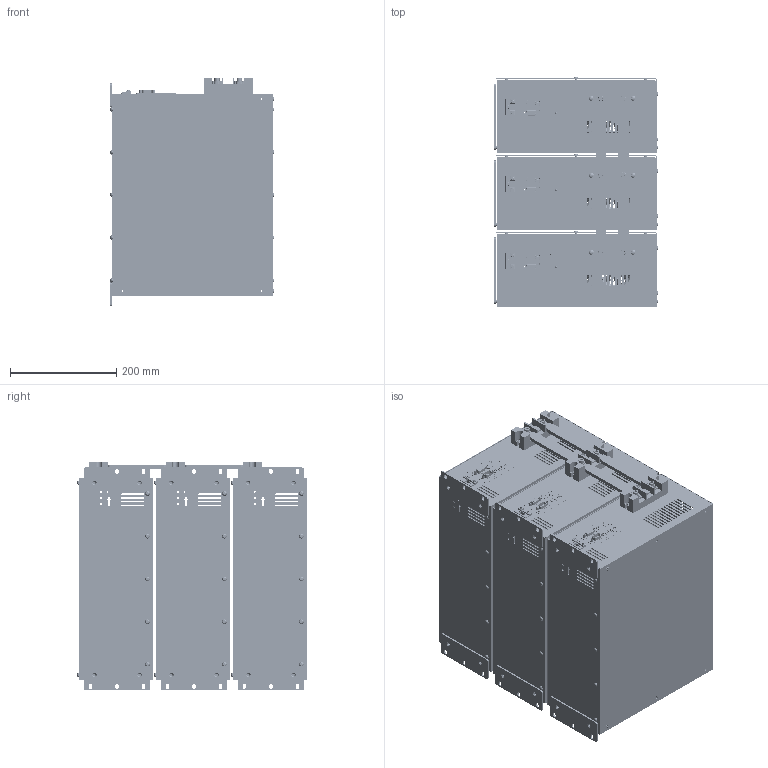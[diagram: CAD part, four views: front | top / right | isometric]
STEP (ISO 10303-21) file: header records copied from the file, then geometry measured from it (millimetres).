
FILE_DESCRIPTION(/* description */ (''),/* implementation_level */ '2;1');
FILE_NAME(/* name */ 'G:\016_배터리 버스바 도면\X4COM(V)-3P\[3D 도면]\[STEP,IGES]\BUS-X4-3P-i-L304.stp',/* time_stamp */ '2025-03-26T15:16:19+09:00',/* author */ ('jjang'),/* organization */ (''),/* preprocessor_version */ 'ST-DEVELOPER v18.1',/* originating_system */ 'Autodesk Inventor 2021',/* authorisation */ '');
FILE_SCHEMA (('CONFIG_CONTROL_DESIGN'));
Products named in the file (1): BUS-X4-3P-i_Shrinkwrap_1
Bounding box: 309.32 x 432.97 x 431 mm (x, y, z)
Volume: 2293832.3 mm3; surface area: 2924807.7 mm2
Topology: 31 solids, 31 shells, 17102 faces, 46348 edges, 30509 vertices
Faces by surface type: plane 8551, bspline 4800, cylinder 3211, torus 366, cone 93, sphere 81
Full cylindrical faces by diameter (mm): 0.61 x81, 0.635 x27, 0.9 x18, 1.397 x27, 2.286 x27, 2.5 x6, 2.8 x18, 2.957 x12, 3 x6, 3.048 x12, 3.6 x36, 3.7 x6, 3.8 x36, 4 x51, 4.3 x36, 4.5 x42, 5 x51, 5.3 x60, 5.4 x6, 5.429 x6, 5.5 x30, 6 x6, 6.082 x3, 6.2 x3, 8 x3, 8.8 x18, 9.2 x6, 10 x24, 13 x6, 25.4 x9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
Entity records: 645452 total; most frequent: CARTESIAN_POINT 223864, ORIENTED_EDGE 92582, DIRECTION 71319, EDGE_CURVE 46291, VERTEX_POINT 30509, LINE 26927, VECTOR 26927, AXIS2_PLACEMENT_3D 22196
